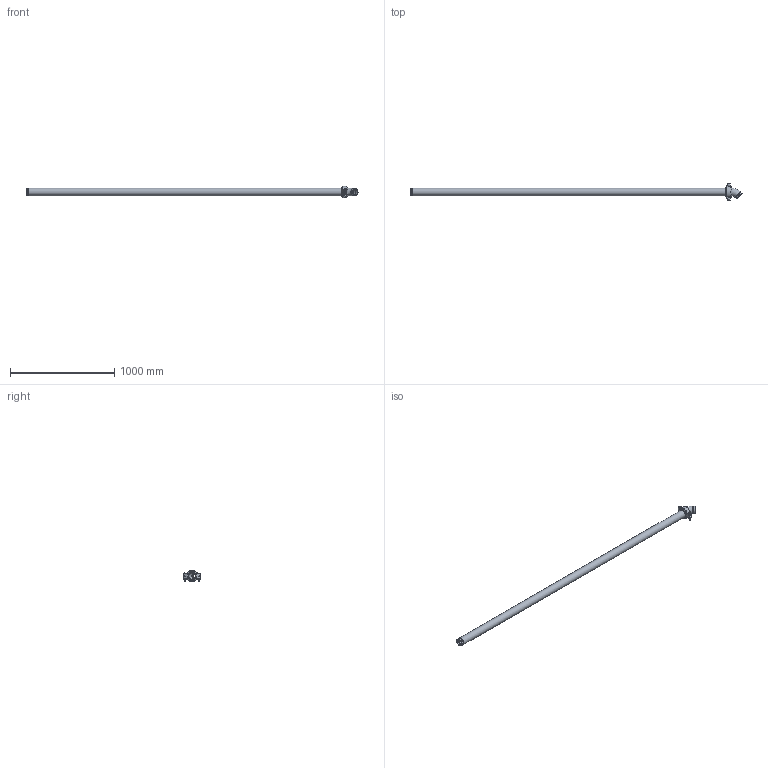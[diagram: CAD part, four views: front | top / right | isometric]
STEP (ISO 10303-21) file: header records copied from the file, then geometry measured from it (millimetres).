
FILE_DESCRIPTION(/* description */ ('VIC LONG RUN FITTING No R24 (OGS)','CAx-IF Rec.Pracs.---Representation and Presentation of Product Manufacturing Information (PMI)---4.0---2014-10-13'),/* implementation_level */ '2;1');
FILE_NAME(/* name */ 'C:\Users\Vjadhav\AppData\Roaming\Autodesk\ApplicationPlugins\Back Up\Victaulic_IPS_Long Run Fittings_No R24 (OGS)\Victaulic_IPS_Long Run Fittings_No R24 (OGS)_2.5 (65).stp',/* time_stamp */ '2020-10-13T19:13:37+06:00',/* author */ ('Vjadhav'),/* organization */ ('Victaulic'),/* preprocessor_version */ 'ST-DEVELOPER v17.2',/* originating_system */ 'Autodesk Inventor 2019',/* authorisation */ '');
FILE_SCHEMA (('AP242_MANAGED_MODEL_BASED_3D_ENGINEERING_MIM_LF { 1 0 10303 442 1 1 4 }'));
Length unit declared in the file: inch
Products named in the file (4): R24-02.5; 011-02.5; 177N-02.5; Pipe_R13-02.5
Assembly tree (3 placements, depth 2):
  R24-02.5
    011-02.5
    177N-02.5
    Pipe_R13-02.5
Bounding box: 3177.73 x 168.94 x 111.25 mm (x, y, z)
Volume: 3828784.1 mm3; surface area: 1414552.7 mm2
Topology: 3 solids, 3 shells, 117 faces, 309 edges, 210 vertices
Faces by surface type: plane 68, cylinder 37, torus 6, cone 4, sphere 2
Full cylindrical faces by diameter (mm): 12.7 x2, 19.05 x2, 60.325 x1, 62.713 x3, 69.088 x4, 73.025 x7
Entity records: 4060 total; most frequent: CARTESIAN_POINT 719, DIRECTION 677, ORIENTED_EDGE 626, EDGE_CURVE 313, AXIS2_PLACEMENT_3D 256, VERTEX_POINT 210, LINE 165, VECTOR 165
